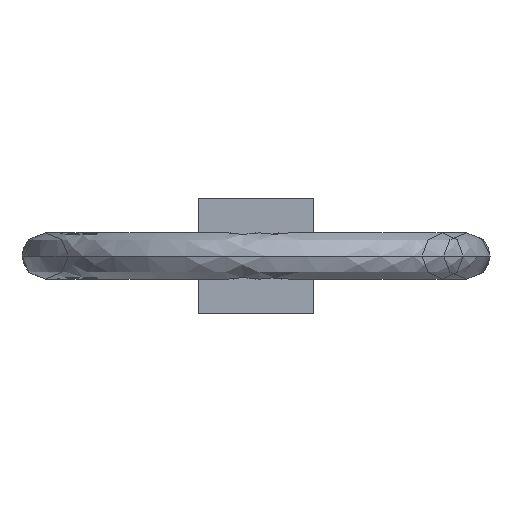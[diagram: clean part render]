
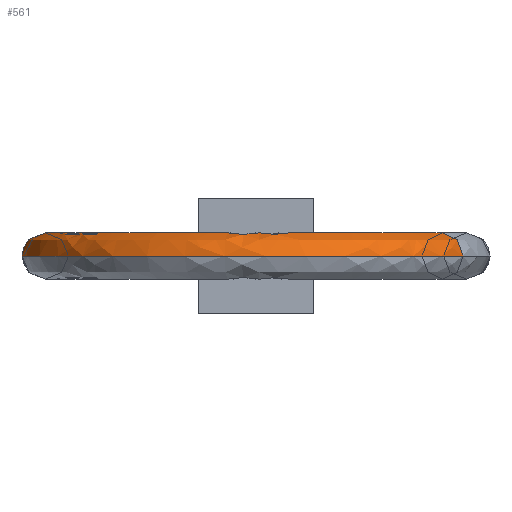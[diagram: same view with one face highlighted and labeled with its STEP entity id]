
A CAD part, left-side view. The second image highlights one B-rep face of the part: STEP entity #561.
In plain terms, the highlighted free-form (B-spline) face has degree [3, 3] with [7, 4] control points.
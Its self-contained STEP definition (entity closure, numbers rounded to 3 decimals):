
#56 = ORIENTED_EDGE ( 'NONE', *, *, #76, .T. ) ;
#58 = EDGE_CURVE ( 'NONE', #174, #1318, #1156, .T. ) ;
#64 = VERTEX_POINT ( 'NONE', #900 ) ;
#76 = EDGE_CURVE ( 'NONE', #88, #64, #471, .T. ) ;
#88 = VERTEX_POINT ( 'NONE', #691 ) ;
#103 = EDGE_CURVE ( 'NONE', #174, #88, #928, .T. ) ;
#174 = VERTEX_POINT ( 'NONE', #830 ) ;
#175 = EDGE_CURVE ( 'NONE', #64, #1318, #836, .T. ) ;
#192 = ORIENTED_EDGE ( 'NONE', *, *, #175, .T. ) ;
#373 = CARTESIAN_POINT ( 'NONE',  ( -446.83, -3.593, 0. ) ) ;
#471 = CIRCLE ( 'NONE', #472, 0.5 ) ;
#472 = AXIS2_PLACEMENT_3D ( 'NONE', #473, #474, #475 ) ;
#473 = CARTESIAN_POINT ( 'NONE',  ( -442.817, 4.036, 0. ) ) ;
#474 = DIRECTION ( 'NONE',  ( 0.885, -0.466, 0. ) ) ;
#475 = DIRECTION ( 'NONE',  ( 0.466, 0.885, 0. ) ) ;
#499 = FACE_OUTER_BOUND ( 'NONE', #786, .T. ) ;
#500 =( BOUNDED_SURFACE ( )  B_SPLINE_SURFACE ( 3, 3, ( 
 ( #501, #502, #503, #504 ),
 ( #505, #506, #507, #508 ),
 ( #509, #512, #513, #514 ),
 ( #515, #516, #517, #518 ),
 ( #519, #520, #521, #522 ),
 ( #523, #524, #525, #526 ),
 ( #527, #528, #529, #530 ) ),
 .UNSPECIFIED., .F., .F., .F. ) 
 B_SPLINE_SURFACE_WITH_KNOTS ( ( 4, 3, 4 ),
 ( 4, 4 ),
 ( 0.021, 0.5, 0.979 ),
 ( 0., 1. ),
 .UNSPECIFIED. ) 
 GEOMETRIC_REPRESENTATION_ITEM ( )  RATIONAL_B_SPLINE_SURFACE ( (
 ( 0.974, 0.325, 0.325, 0.974),
 ( 0.79, 0.263, 0.263, 0.79),
 ( 0.799, 0.266, 0.266, 0.799),
 ( 1., 0.333, 0.333, 1.),
 ( 0.799, 0.266, 0.266, 0.799),
 ( 0.79, 0.263, 0.263, 0.79),
 ( 0.974, 0.325, 0.325, 0.974) ) ) 
 REPRESENTATION_ITEM ( '' )  SURFACE ( )  );
#501 = CARTESIAN_POINT ( 'NONE',  ( -442.584, 4.478, 0. ) ) ;
#502 = CARTESIAN_POINT ( 'NONE',  ( -451.541, 9.189, 0. ) ) ;
#503 = CARTESIAN_POINT ( 'NONE',  ( -456.252, 0.233, 0. ) ) ;
#504 = CARTESIAN_POINT ( 'NONE',  ( -447.296, -4.478, 0. ) ) ;
#505 = CARTESIAN_POINT ( 'NONE',  ( -442.584, 4.478, 0.294 ) ) ;
#506 = CARTESIAN_POINT ( 'NONE',  ( -451.541, 9.189, 0.294 ) ) ;
#507 = CARTESIAN_POINT ( 'NONE',  ( -456.252, 0.233, 0.294 ) ) ;
#508 = CARTESIAN_POINT ( 'NONE',  ( -447.296, -4.478, 0.294 ) ) ;
#509 = CARTESIAN_POINT ( 'NONE',  ( -442.682, 4.294, 0.5 ) ) ;
#512 = CARTESIAN_POINT ( 'NONE',  ( -451.269, 8.81, 0.5 ) ) ;
#513 = CARTESIAN_POINT ( 'NONE',  ( -455.786, 0.223, 0.5 ) ) ;
#514 = CARTESIAN_POINT ( 'NONE',  ( -447.198, -4.294, 0.5 ) ) ;
#515 = CARTESIAN_POINT ( 'NONE',  ( -442.817, 4.036, 0.5 ) ) ;
#516 = CARTESIAN_POINT ( 'NONE',  ( -450.889, 8.281, 0.5 ) ) ;
#517 = CARTESIAN_POINT ( 'NONE',  ( -455.134, 0.21, 0.5 ) ) ;
#518 = CARTESIAN_POINT ( 'NONE',  ( -447.063, -4.036, 0.5 ) ) ;
#519 = CARTESIAN_POINT ( 'NONE',  ( -442.953, 3.778, 0.5 ) ) ;
#520 = CARTESIAN_POINT ( 'NONE',  ( -450.509, 7.752, 0.5 ) ) ;
#521 = CARTESIAN_POINT ( 'NONE',  ( -454.483, 0.196, 0.5 ) ) ;
#522 = CARTESIAN_POINT ( 'NONE',  ( -446.927, -3.778, 0.5 ) ) ;
#523 = CARTESIAN_POINT ( 'NONE',  ( -443.05, 3.593, 0.294 ) ) ;
#524 = CARTESIAN_POINT ( 'NONE',  ( -450.236, 7.373, 0.294 ) ) ;
#525 = CARTESIAN_POINT ( 'NONE',  ( -454.017, 0.187, 0.294 ) ) ;
#526 = CARTESIAN_POINT ( 'NONE',  ( -446.83, -3.593, 0.294 ) ) ;
#527 = CARTESIAN_POINT ( 'NONE',  ( -443.05, 3.593, 0. ) ) ;
#528 = CARTESIAN_POINT ( 'NONE',  ( -450.236, 7.373, 0. ) ) ;
#529 = CARTESIAN_POINT ( 'NONE',  ( -454.017, 0.187, 0. ) ) ;
#530 = CARTESIAN_POINT ( 'NONE',  ( -446.83, -3.593, 0. ) ) ;
#561 = ADVANCED_FACE ( 'NONE', ( #499 ), #500, .T. ) ;
#691 = CARTESIAN_POINT ( 'NONE',  ( -442.584, 4.478, 0. ) ) ;
#716 = ORIENTED_EDGE ( 'NONE', *, *, #103, .T. ) ;
#786 = EDGE_LOOP ( 'NONE', ( #822, #716, #56, #192 ) ) ;
#822 = ORIENTED_EDGE ( 'NONE', *, *, #58, .F. ) ;
#830 = CARTESIAN_POINT ( 'NONE',  ( -447.296, -4.478, 0. ) ) ;
#836 = CIRCLE ( 'NONE', #837, 4.06 ) ;
#837 = AXIS2_PLACEMENT_3D ( 'NONE', #838, #839, #840 ) ;
#838 = CARTESIAN_POINT ( 'NONE',  ( -444.94, 0., 0. ) ) ;
#839 = DIRECTION ( 'NONE',  ( 0., 0., 1. ) ) ;
#840 = DIRECTION ( 'NONE',  ( -0.466, -0.885, 0. ) ) ;
#900 = CARTESIAN_POINT ( 'NONE',  ( -443.05, 3.593, 0. ) ) ;
#928 = CIRCLE ( 'NONE', #929, 5.06 ) ;
#929 = AXIS2_PLACEMENT_3D ( 'NONE', #930, #931, #932 ) ;
#930 = CARTESIAN_POINT ( 'NONE',  ( -444.94, 0., 0. ) ) ;
#931 = DIRECTION ( 'NONE',  ( 0., 0., -1. ) ) ;
#932 = DIRECTION ( 'NONE',  ( -0.466, -0.885, 0. ) ) ;
#1156 =( BOUNDED_CURVE ( )  B_SPLINE_CURVE ( 3, ( #1157, #1158, #1159, #1160, #1161, #1162, #1165 ),
 .UNSPECIFIED., .F., .T. ) 
 B_SPLINE_CURVE_WITH_KNOTS ( ( 4, 3, 4 ),
 ( 0.021, 0.5, 0.979 ),
 .UNSPECIFIED. ) 
 CURVE ( )  GEOMETRIC_REPRESENTATION_ITEM ( )  RATIONAL_B_SPLINE_CURVE ( ( 0.974, 0.79, 0.799, 1., 0.799, 0.79, 0.974 ) ) 
 REPRESENTATION_ITEM ( '' )  );
#1157 = CARTESIAN_POINT ( 'NONE',  ( -447.296, -4.478, 0. ) ) ;
#1158 = CARTESIAN_POINT ( 'NONE',  ( -447.296, -4.478, 0.294 ) ) ;
#1159 = CARTESIAN_POINT ( 'NONE',  ( -447.198, -4.294, 0.5 ) ) ;
#1160 = CARTESIAN_POINT ( 'NONE',  ( -447.063, -4.036, 0.5 ) ) ;
#1161 = CARTESIAN_POINT ( 'NONE',  ( -446.927, -3.778, 0.5 ) ) ;
#1162 = CARTESIAN_POINT ( 'NONE',  ( -446.83, -3.593, 0.294 ) ) ;
#1165 = CARTESIAN_POINT ( 'NONE',  ( -446.83, -3.593, 0. ) ) ;
#1318 = VERTEX_POINT ( 'NONE', #373 ) ;
